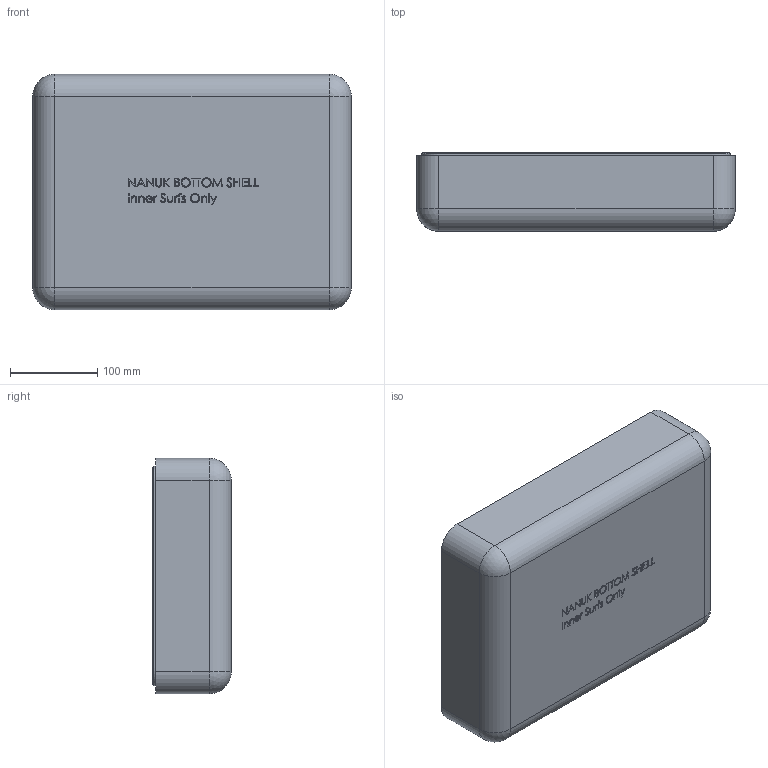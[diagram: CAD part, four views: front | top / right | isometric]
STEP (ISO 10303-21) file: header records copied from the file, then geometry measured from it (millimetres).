
FILE_DESCRIPTION (( 'STEP AP203' ), '1' );
FILE_NAME ('NANUK_910_Bottom_INNER SURFS.STEP', '2020-09-17T18:35:19', ( 'Sylvain' ), ( '' ), 'SwSTEP 2.0', 'SolidWorks 2019', '' );
FILE_SCHEMA (( 'CONFIG_CONTROL_DESIGN' ));
Length unit declared in the file: metre
Products named in the file (1): NANUK_910_Bottom_INNER SURFS
Bounding box: 364.47 x 89.92 x 269.49 mm (x, y, z)
Volume: 3037881.3 mm3; surface area: 369891.8 mm2
Topology: 1 solids, 1 shells, 1036 faces, 2555 edges, 1568 vertices
Faces by surface type: bspline 407, plane 330, cylinder 183, torus 84, cone 24, sphere 8
Entity records: 67920 total; most frequent: CARTESIAN_POINT 46403, ORIENTED_EDGE 5082, DIRECTION 3561, EDGE_CURVE 2541, VERTEX_POINT 1568, AXIS2_PLACEMENT_3D 1244, EDGE_LOOP 1099, VECTOR 1073
